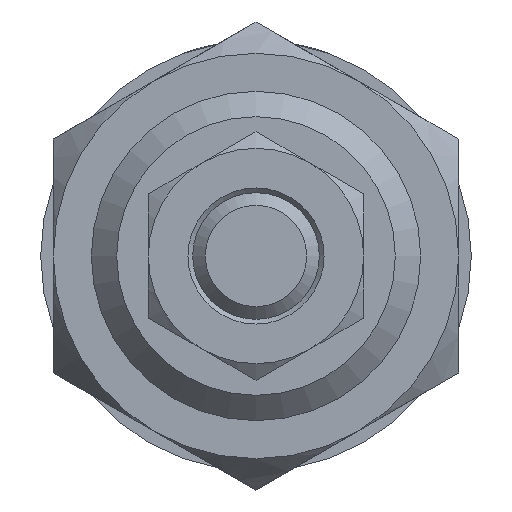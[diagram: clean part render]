
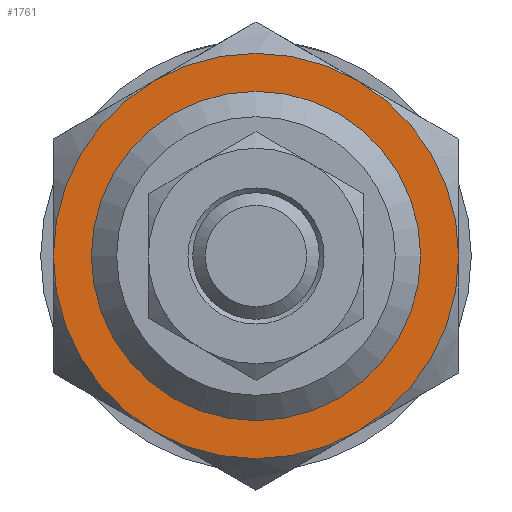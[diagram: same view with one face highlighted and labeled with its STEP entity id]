
A CAD part, front view. The second image highlights one B-rep face of the part: STEP entity #1761.
In plain terms, the highlighted planar face has unit normal (0, -1, 0).
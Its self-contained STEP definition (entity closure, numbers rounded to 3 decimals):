
#199=PLANE('',#1931);
#463=ORIENTED_EDGE('',*,*,#650,.T.);
#464=ORIENTED_EDGE('',*,*,#651,.T.);
#465=ORIENTED_EDGE('',*,*,#652,.T.);
#466=ORIENTED_EDGE('',*,*,#653,.T.);
#467=ORIENTED_EDGE('',*,*,#654,.T.);
#468=ORIENTED_EDGE('',*,*,#655,.T.);
#469=ORIENTED_EDGE('',*,*,#656,.T.);
#650=EDGE_CURVE('',#764,#764,#820,.T.);
#651=EDGE_CURVE('',#759,#763,#821,.F.);
#652=EDGE_CURVE('',#763,#765,#822,.F.);
#653=EDGE_CURVE('',#765,#746,#823,.F.);
#654=EDGE_CURVE('',#746,#751,#824,.F.);
#655=EDGE_CURVE('',#751,#755,#825,.F.);
#656=EDGE_CURVE('',#755,#759,#826,.F.);
#746=VERTEX_POINT('',#2698);
#751=VERTEX_POINT('',#2719);
#755=VERTEX_POINT('',#2738);
#759=VERTEX_POINT('',#2757);
#763=VERTEX_POINT('',#2776);
#764=VERTEX_POINT('',#2785);
#765=VERTEX_POINT('',#2788);
#820=CIRCLE('',#1932,12.75);
#821=CIRCLE('',#1933,16.);
#822=CIRCLE('',#1934,16.);
#823=CIRCLE('',#1935,16.);
#824=CIRCLE('',#1936,16.);
#825=CIRCLE('',#1937,16.);
#826=CIRCLE('',#1938,16.);
#938=EDGE_LOOP('',(#463));
#939=EDGE_LOOP('',(#464,#465,#466,#467,#468,#469));
#1064=FACE_BOUND('',#938,.T.);
#1065=FACE_BOUND('',#939,.T.);
#1761=ADVANCED_FACE('',(#1064,#1065),#199,.F.);
#1931=AXIS2_PLACEMENT_3D('',#2783,#2250,#2251);
#1932=AXIS2_PLACEMENT_3D('',#2784,#2252,#2253);
#1933=AXIS2_PLACEMENT_3D('',#2786,#2254,#2255);
#1934=AXIS2_PLACEMENT_3D('',#2787,#2256,#2257);
#1935=AXIS2_PLACEMENT_3D('',#2789,#2258,#2259);
#1936=AXIS2_PLACEMENT_3D('',#2790,#2260,#2261);
#1937=AXIS2_PLACEMENT_3D('',#2791,#2262,#2263);
#1938=AXIS2_PLACEMENT_3D('',#2792,#2264,#2265);
#2250=DIRECTION('',(0.,1.,0.));
#2251=DIRECTION('',(0.,0.,1.));
#2252=DIRECTION('',(0.,1.,0.));
#2253=DIRECTION('',(0.,0.,1.));
#2254=DIRECTION('',(0.,1.,0.));
#2255=DIRECTION('',(0.,0.,1.));
#2256=DIRECTION('',(0.,1.,0.));
#2257=DIRECTION('',(0.,0.,1.));
#2258=DIRECTION('',(0.,1.,0.));
#2259=DIRECTION('',(0.,0.,1.));
#2260=DIRECTION('',(0.,1.,0.));
#2261=DIRECTION('',(0.,0.,1.));
#2262=DIRECTION('',(0.,1.,0.));
#2263=DIRECTION('',(0.,0.,1.));
#2264=DIRECTION('',(0.,1.,0.));
#2265=DIRECTION('',(0.,0.,1.));
#2698=CARTESIAN_POINT('',(-8.,-8.,-13.856));
#2719=CARTESIAN_POINT('',(8.,-8.,-13.856));
#2738=CARTESIAN_POINT('',(16.,-8.,0.));
#2757=CARTESIAN_POINT('',(8.,-8.,13.856));
#2776=CARTESIAN_POINT('',(-8.,-8.,13.856));
#2783=CARTESIAN_POINT('',(0.,-8.,0.));
#2784=CARTESIAN_POINT('',(0.,-8.,0.));
#2785=CARTESIAN_POINT('',(0.,-8.,12.75));
#2786=CARTESIAN_POINT('',(0.,-8.,0.));
#2787=CARTESIAN_POINT('',(0.,-8.,0.));
#2788=CARTESIAN_POINT('',(-16.,-8.,0.));
#2789=CARTESIAN_POINT('',(0.,-8.,0.));
#2790=CARTESIAN_POINT('',(0.,-8.,0.));
#2791=CARTESIAN_POINT('',(0.,-8.,0.));
#2792=CARTESIAN_POINT('',(0.,-8.,0.));
